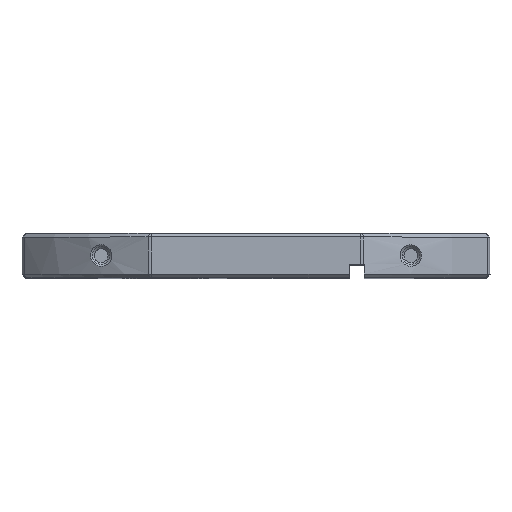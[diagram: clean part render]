
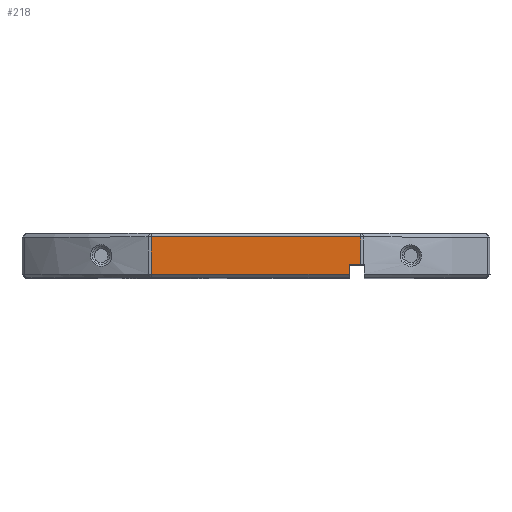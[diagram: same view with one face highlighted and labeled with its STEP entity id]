
A CAD part, top view. The second image highlights one B-rep face of the part: STEP entity #218.
In plain terms, the highlighted planar face has unit normal (0, 0, 1).
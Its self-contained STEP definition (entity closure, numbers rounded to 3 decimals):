
#108=PLANE('',#4774);
#218=ADVANCED_FACE('',(#467),#108,.T.);
#467=FACE_OUTER_BOUND('',#754,.F.);
#754=EDGE_LOOP('',(#1270,#1271,#1272,#1273,#1274,#1275));
#1270=ORIENTED_EDGE('',*,*,#2965,.F.);
#1271=ORIENTED_EDGE('',*,*,#2915,.T.);
#1272=ORIENTED_EDGE('',*,*,#2911,.T.);
#1273=ORIENTED_EDGE('',*,*,#2707,.F.);
#1274=ORIENTED_EDGE('',*,*,#2966,.T.);
#1275=ORIENTED_EDGE('',*,*,#2765,.T.);
#2707=EDGE_CURVE('',#4350,#4353,#3309,.T.);
#2765=EDGE_CURVE('',#4293,#4292,#3331,.T.);
#2911=EDGE_CURVE('',#4148,#4353,#3387,.T.);
#2915=EDGE_CURVE('',#4150,#4148,#3391,.T.);
#2965=EDGE_CURVE('',#4150,#4292,#3421,.T.);
#2966=EDGE_CURVE('',#4350,#4293,#3422,.T.);
#3309=LINE('',#6835,#3681);
#3331=LINE('',#6893,#3703);
#3387=LINE('',#7167,#3759);
#3391=LINE('',#7171,#3763);
#3421=LINE('',#7221,#3793);
#3422=LINE('',#7222,#3794);
#3681=VECTOR('',#5119,22.397);
#3703=VECTOR('',#5213,23.695);
#3759=VECTOR('',#5433,1.1);
#3763=VECTOR('',#5437,1.297);
#3793=VECTOR('',#5507,3.1);
#3794=VECTOR('',#5508,4.2);
#4148=VERTEX_POINT('',#6470);
#4150=VERTEX_POINT('',#6472);
#4292=VERTEX_POINT('',#6614);
#4293=VERTEX_POINT('',#6615);
#4350=VERTEX_POINT('',#6672);
#4353=VERTEX_POINT('',#6675);
#4774=AXIS2_PLACEMENT_3D('',#8063,#5896,#5897);
#5119=DIRECTION('',(1.,0.,0.));
#5213=DIRECTION('',(1.,0.,0.));
#5433=DIRECTION('',(0.,-1.,0.));
#5437=DIRECTION('',(-1.,0.,0.));
#5507=DIRECTION('',(0.,1.,0.));
#5508=DIRECTION('',(0.,1.,0.));
#5896=DIRECTION('',(0.,0.,1.));
#5897=DIRECTION('',(1.,0.,0.));
#6470=CARTESIAN_POINT('',(842.767,-13.179,526.967));
#6472=CARTESIAN_POINT('',(844.064,-13.179,526.967));
#6614=CARTESIAN_POINT('',(844.064,-10.079,526.967));
#6615=CARTESIAN_POINT('',(820.37,-10.079,526.967));
#6672=CARTESIAN_POINT('',(820.37,-14.279,526.967));
#6675=CARTESIAN_POINT('',(842.767,-14.279,526.967));
#6835=CARTESIAN_POINT('',(820.37,-14.279,526.967));
#6893=CARTESIAN_POINT('',(820.37,-10.079,526.967));
#7167=CARTESIAN_POINT('',(842.767,-13.179,526.967));
#7171=CARTESIAN_POINT('',(844.064,-13.179,526.967));
#7221=CARTESIAN_POINT('',(844.064,-13.179,526.967));
#7222=CARTESIAN_POINT('',(820.37,-14.279,526.967));
#8063=CARTESIAN_POINT('',(820.133,-14.916,526.967));
